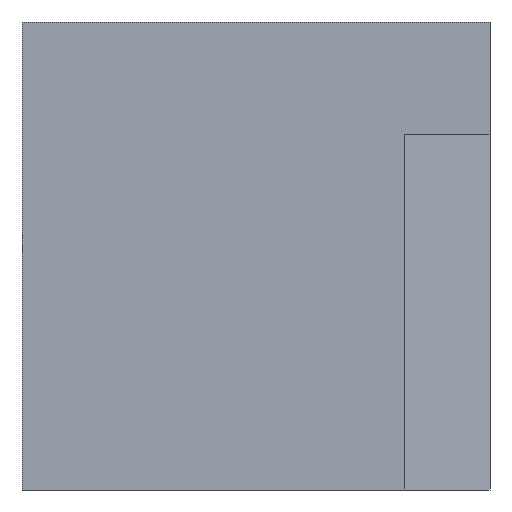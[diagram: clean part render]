
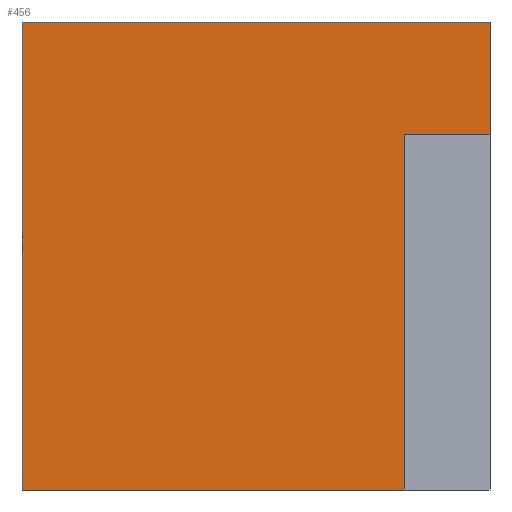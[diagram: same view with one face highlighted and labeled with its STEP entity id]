
A CAD part, front view. The second image highlights one B-rep face of the part: STEP entity #456.
In plain terms, the highlighted planar face has unit normal (0, -1, 0).
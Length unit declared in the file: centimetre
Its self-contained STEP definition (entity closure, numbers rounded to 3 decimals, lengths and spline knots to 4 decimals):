
#4 = CARTESIAN_POINT ( 'NONE',  ( 1000., 0., 759.556 ) ) ;
#40 = FACE_OUTER_BOUND ( 'NONE', #246, .T. ) ;
#45 = EDGE_CURVE ( 'NONE', #419, #299, #397, .T. ) ;
#53 = CARTESIAN_POINT ( 'NONE',  ( 1000., 0., 1000. ) ) ;
#61 = EDGE_CURVE ( 'NONE', #559, #587, #254, .T. ) ;
#106 = CARTESIAN_POINT ( 'NONE',  ( 0., 0., 1000. ) ) ;
#141 = DIRECTION ( 'NONE',  ( 1., 0., 0. ) ) ;
#150 = VECTOR ( 'NONE', #141, 100. ) ;
#163 = AXIS2_PLACEMENT_3D ( 'NONE', #106, #518, #210 ) ;
#174 = CARTESIAN_POINT ( 'NONE',  ( 816.2409, 0., 759.556 ) ) ;
#181 = DIRECTION ( 'NONE',  ( 1., 0., 0. ) ) ;
#185 = VECTOR ( 'NONE', #353, 100. ) ;
#194 = LINE ( 'NONE', #403, #150 ) ;
#210 = DIRECTION ( 'NONE',  ( 0., 0., 1. ) ) ;
#226 = CARTESIAN_POINT ( 'NONE',  ( 816.2409, 0., 759.556 ) ) ;
#246 = EDGE_LOOP ( 'NONE', ( #615, #660, #333, #460, #640, #499 ) ) ;
#251 = PLANE ( 'NONE',  #163 ) ;
#254 = LINE ( 'NONE', #600, #285 ) ;
#270 = CARTESIAN_POINT ( 'NONE',  ( 1000., 0., 1000. ) ) ;
#273 = EDGE_CURVE ( 'NONE', #587, #439, #291, .T. ) ;
#285 = VECTOR ( 'NONE', #465, 100. ) ;
#291 = LINE ( 'NONE', #595, #622 ) ;
#299 = VERTEX_POINT ( 'NONE', #343 ) ;
#312 = EDGE_CURVE ( 'NONE', #559, #594, #194, .T. ) ;
#333 = ORIENTED_EDGE ( 'NONE', *, *, #45, .F. ) ;
#343 = CARTESIAN_POINT ( 'NONE',  ( 816.2409, 0., 759.556 ) ) ;
#353 = DIRECTION ( 'NONE',  ( -1., 0., 0. ) ) ;
#358 = EDGE_CURVE ( 'NONE', #594, #419, #572, .T. ) ;
#369 = CARTESIAN_POINT ( 'NONE',  ( 0., 0., 0. ) ) ;
#397 = LINE ( 'NONE', #174, #185 ) ;
#403 = CARTESIAN_POINT ( 'NONE',  ( 0., 0., 1000. ) ) ;
#411 = DIRECTION ( 'NONE',  ( 0., 0., -1. ) ) ;
#419 = VERTEX_POINT ( 'NONE', #4 ) ;
#439 = VERTEX_POINT ( 'NONE', #527 ) ;
#456 = ADVANCED_FACE ( 'NONE', ( #40 ), #251, .F. ) ;
#460 = ORIENTED_EDGE ( 'NONE', *, *, #358, .F. ) ;
#465 = DIRECTION ( 'NONE',  ( 0., 0., -1. ) ) ;
#477 = DIRECTION ( 'NONE',  ( 0., 0., -1. ) ) ;
#486 = VECTOR ( 'NONE', #411, 100. ) ;
#499 = ORIENTED_EDGE ( 'NONE', *, *, #61, .T. ) ;
#500 = EDGE_CURVE ( 'NONE', #299, #439, #580, .T. ) ;
#518 = DIRECTION ( 'NONE',  ( 0., 1., 0. ) ) ;
#527 = CARTESIAN_POINT ( 'NONE',  ( 816.2409, 0., 0. ) ) ;
#540 = CARTESIAN_POINT ( 'NONE',  ( 0., 0., 1000. ) ) ;
#546 = VECTOR ( 'NONE', #477, 100. ) ;
#559 = VERTEX_POINT ( 'NONE', #540 ) ;
#572 = LINE ( 'NONE', #53, #486 ) ;
#580 = LINE ( 'NONE', #226, #546 ) ;
#587 = VERTEX_POINT ( 'NONE', #369 ) ;
#594 = VERTEX_POINT ( 'NONE', #270 ) ;
#595 = CARTESIAN_POINT ( 'NONE',  ( 0., 0., 0. ) ) ;
#600 = CARTESIAN_POINT ( 'NONE',  ( 0., 0., 1000. ) ) ;
#615 = ORIENTED_EDGE ( 'NONE', *, *, #273, .T. ) ;
#622 = VECTOR ( 'NONE', #181, 100. ) ;
#640 = ORIENTED_EDGE ( 'NONE', *, *, #312, .F. ) ;
#660 = ORIENTED_EDGE ( 'NONE', *, *, #500, .F. ) ;
